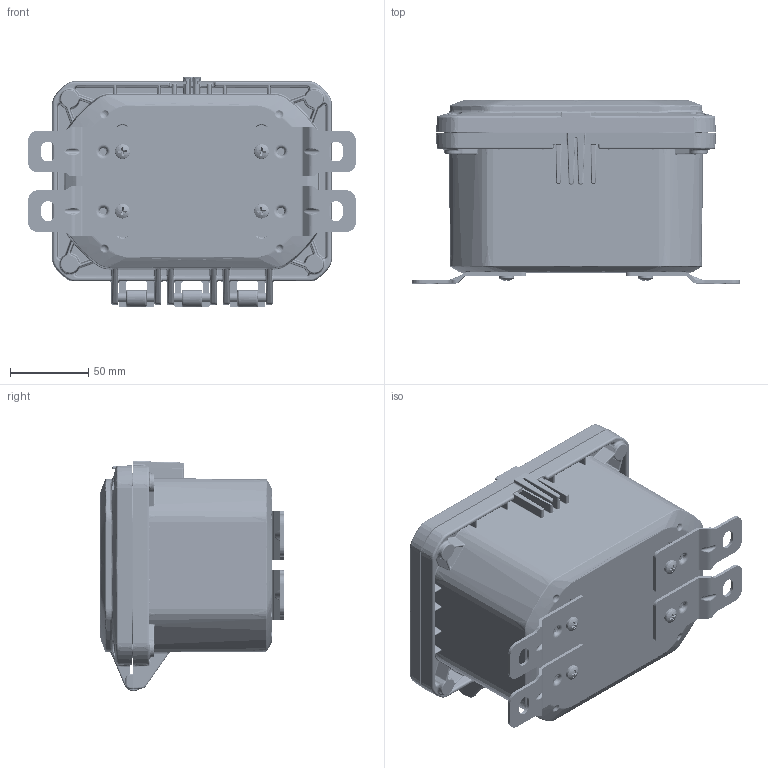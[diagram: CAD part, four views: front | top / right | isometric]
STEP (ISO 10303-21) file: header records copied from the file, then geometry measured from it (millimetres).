
FILE_DESCRIPTION (( 'STEP AP214' ), '1' );
FILE_NAME ('ZH-060404-41.STEP', '2024-10-25T16:28:06', ( '' ), ( '' ), 'SwSTEP 2.0', 'SolidWorks 2024', '' );
FILE_SCHEMA (( 'AUTOMOTIVE_DESIGN' ));
Length unit declared in the file: inch
Products named in the file (11): SCREWS-046_SCREWS-046; SCREWS-049_SCREWS-049; ZH-060404-41; Z_-06043BI_ZH-06043BI-01; ZH-0604G; INSERTS-4; LABEL-104; ZH-91F-01_ZH-91F-01; Z_-06041C_ZH-06041C-01; Z_-06041CG_ZH-06041CG-01; Z_-06043B_ZH-06043B-01
Assembly tree (30 placements, depth 3):
  ZH-060404-41
    Z_-06043BI_ZH-06043BI-01
      Z_-06043B_ZH-06043B-01
      INSERTS-4  x12
      LABEL-104
    Z_-06041CG_ZH-06041CG-01
      Z_-06041C_ZH-06041C-01
      ZH-0604G
    SCREWS-046_SCREWS-046  x4
    SCREWS-049_SCREWS-049  x4
    ZH-91F-01_ZH-91F-01  x4
Bounding box: 209.55 x 117.05 x 147.19 mm (x, y, z)
Volume: 488035.7 mm3; surface area: 291630.6 mm2
Topology: 28 solids, 28 shells, 6068 faces, 14895 edges, 8872 vertices
Faces by surface type: bspline 1639, plane 1359, cylinder 1278, cone 980, torus 606, sphere 206
Entity records: 208809 total; most frequent: CARTESIAN_POINT 118981, ORIENTED_EDGE 20638, DIRECTION 16803, EDGE_CURVE 10319, AXIS2_PLACEMENT_3D 7101, VERTEX_POINT 6005, EDGE_LOOP 4508, ADVANCED_FACE 4405
